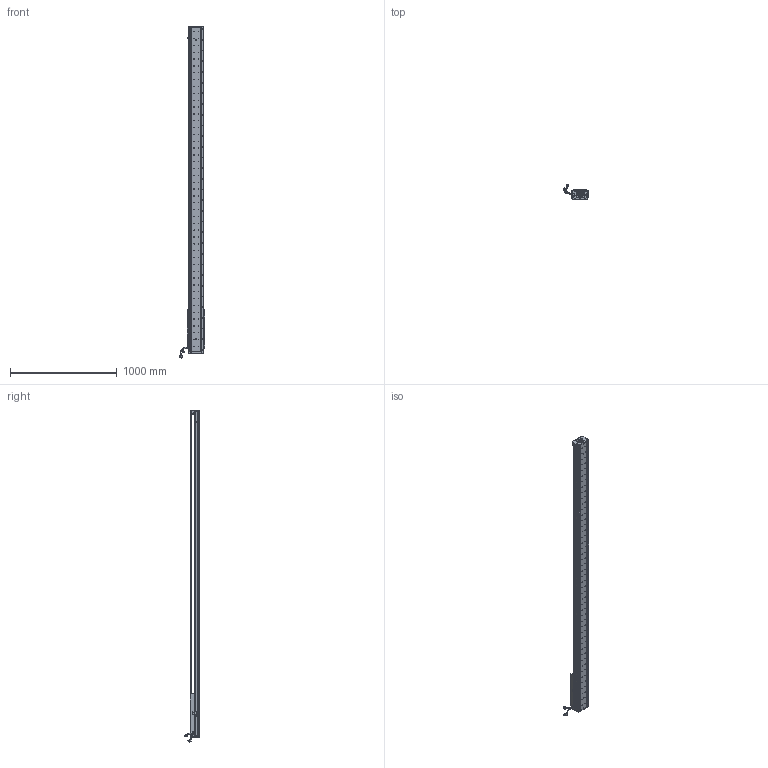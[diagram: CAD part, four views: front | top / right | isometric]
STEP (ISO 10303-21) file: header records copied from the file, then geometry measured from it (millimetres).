
FILE_DESCRIPTION (( 'STEP AP203' ), '1' );
FILE_NAME ('Z5-RY140D-1-L500-B-K.SLDASM_2600.step', '2021-05-17T08:40:51', ( '盈信电脑' ), ( '东莞市道滘镇水果街19号' ), 'SwSTEP 2.0', 'SolidWorks 2016', '' );
FILE_SCHEMA (( 'CONFIG_CONTROL_DESIGN' ));
Length unit declared in the file: millimetre
Products named in the file (36): 140-Z-臏賑輸盄裔(21遴); 140蚥薯蝶輸; SCALE; 080黍杅芛假蚾釱21遴; 140雄赽晤鎢ん堤盄; SCREW-M1.6-2; 榋妏寠巭燃_暯_M2_2; LABEL-Part-1; 詩湍狟揤裔; HARNESS; SEAL; Z5-RY140-L500詩湍100mm遵_2600; SHIELDPLATE; SCREW-M1.7; HARNESS-Part-1; Z-RY140感应器672光电感应片; SCREW-M1.7-1; COVER; SCALE-Part-1; 詩湍奻揤裔; SCREW-M1.6-3; SCREW-M1.6-1; LABEL; COVER-Part-1; PBU_SHEET; SEAL-Part-1; SCALE-Part-2; HOLDER0; 覜茼ん672; PSLH080_PSLF2; Z-140詩湍傷裔啣; Z5-RY140-L500直线电机模组底座_2600; Z5-RY140圉猾敕臏賑輸(21遴); Z5-RY140D-1-L500-B-K.SLDASM_2600; HARNESS-Part-2; SCREW-M1.6
Assembly tree (41 placements, depth 4):
  Z5-RY140D-1-L500-B-K.SLDASM_2600
    Z5-RY140-L500直线电机模组底座_2600
    Z-RY140感应器672光电感应片
    Z5-RY140圉猾敕臏賑輸(21遴)
    覜茼ん672  x3
    Z5-RY140-L500詩湍100mm遵_2600
    PSLH080_PSLF2
      SCALE
        SCALE-Part-1
        SCALE-Part-2
      HARNESS
        HARNESS-Part-1
        HARNESS-Part-2
      LABEL
        LABEL-Part-1
      COVER
        COVER-Part-1
      SEAL
        SEAL-Part-1
      榋妏寠巭燃_暯_M2_2
      SHIELDPLATE
      SCREW-M1.7
      SCREW-M1.7-1
      PBU_SHEET
      SCREW-M1.6
      SCREW-M1.6-1
      SCREW-M1.6-2
      SCREW-M1.6-3
      HOLDER0
    080黍杅芛假蚾釱21遴
    140-Z-臏賑輸盄裔(21遴)
    Z-140詩湍傷裔啣  x2
    詩湍狟揤裔  x2
    詩湍奻揤裔  x2
    140蚥薯蝶輸  x2
    140雄赽晤鎢ん堤盄
Bounding box: 239.79 x 143.88 x 3105.87 mm (x, y, z)
Volume: 10177723.2 mm3; surface area: 2617070 mm2
Topology: 36 solids, 36 shells, 4538 faces, 12418 edges, 7873 vertices
Faces by surface type: cylinder 2532, plane 1450, cone 434, torus 69, bspline 53
Entity records: 146318 total; most frequent: CARTESIAN_POINT 41997, ORIENTED_EDGE 21692, DIRECTION 19894, EDGE_CURVE 10846, AXIS2_PLACEMENT_3D 7434, VERTEX_POINT 7041, LINE 5026, VECTOR 5026
